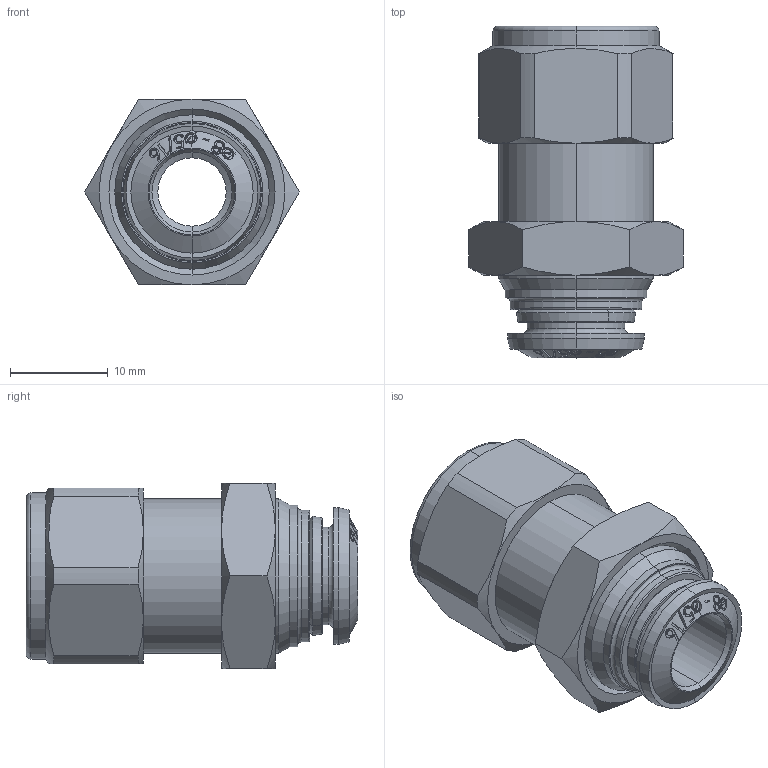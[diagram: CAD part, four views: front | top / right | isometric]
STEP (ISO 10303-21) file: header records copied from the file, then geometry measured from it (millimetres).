
FILE_DESCRIPTION (( 'STEP AP214' ), '1' );
FILE_NAME ('5005500005.STEP', '2019-05-22T09:57:12', ( 'admin' ), ( '' ), 'SwSTEP 2.0', 'SolidWorks 2016', '' );
FILE_SCHEMA (( 'AUTOMOTIVE_DESIGN' ));
Length unit declared in the file: millimetre
Products named in the file (1): 5005500005
Bounding box: 21.94 x 33.95 x 19 mm (x, y, z)
Volume: 5258.1 mm3; surface area: 3584.7 mm2
Topology: 1 solids, 1 shells, 217 faces, 529 edges, 334 vertices
Faces by surface type: bspline 97, cone 62, cylinder 26, plane 22, torus 10
Entity records: 14122 total; most frequent: CARTESIAN_POINT 7496, ORIENTED_EDGE 1058, DIRECTION 536, EDGE_CURVE 529, B_SPLINE_CURVE_WITH_KNOTS 347, VERTEX_POINT 334, EDGE_LOOP 239, AXIS2_PLACEMENT_3D 233
